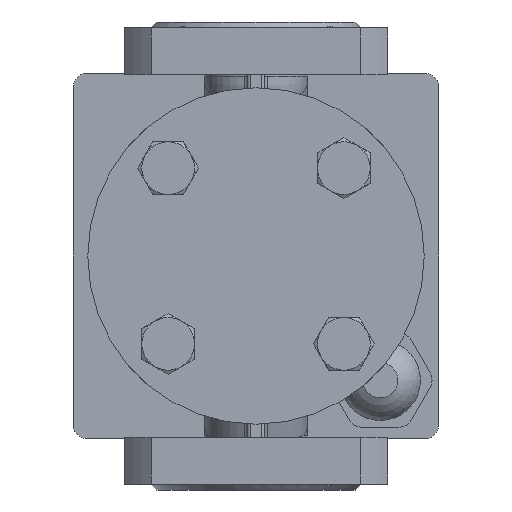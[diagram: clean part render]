
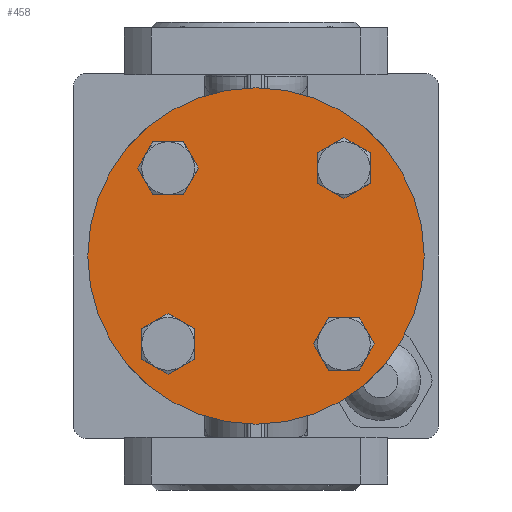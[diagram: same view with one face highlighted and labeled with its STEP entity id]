
A CAD part, front view. The second image highlights one B-rep face of the part: STEP entity #458.
In plain terms, the highlighted planar face has unit normal (0, -1, 0).
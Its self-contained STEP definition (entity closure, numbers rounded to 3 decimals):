
#458=ADVANCED_FACE('',(#9619,#9621,#9623,#9625,#9627),#9629,.F.);
#9619=FACE_BOUND('',#9620,.T.);
#9620=EDGE_LOOP('',(#22709));
#9621=FACE_BOUND('',#9622,.T.);
#9622=EDGE_LOOP('',(#22710));
#9623=FACE_BOUND('',#9624,.T.);
#9624=EDGE_LOOP('',(#22711));
#9625=FACE_BOUND('',#9626,.T.);
#9626=EDGE_LOOP('',(#22712));
#9627=FACE_BOUND('',#9628,.T.);
#9628=EDGE_LOOP('',(#22713));
#9629=PLANE('',#9630);
#9630=AXIS2_PLACEMENT_3D('',#9631,#9632,#9633);
#9631=CARTESIAN_POINT('',(0.,-96.,0.));
#9632=DIRECTION('',(0.,1.,0.));
#9633=DIRECTION('',(-1.,0.,0.));
#22709=ORIENTED_EDGE('',*,*,#30631,.F.);
#22710=ORIENTED_EDGE('',*,*,#30672,.F.);
#22711=ORIENTED_EDGE('',*,*,#30673,.F.);
#22712=ORIENTED_EDGE('',*,*,#30674,.F.);
#22713=ORIENTED_EDGE('',*,*,#30675,.F.);
#30631=EDGE_CURVE('',#34461,#34461,#34462,.T.);
#30672=EDGE_CURVE('',#34527,#34527,#34528,.T.);
#30673=EDGE_CURVE('',#34529,#34529,#34530,.T.);
#30674=EDGE_CURVE('',#34531,#34531,#34532,.T.);
#30675=EDGE_CURVE('',#34533,#34533,#34534,.T.);
#34461=VERTEX_POINT('',#41322);
#34462=CIRCLE('',#41323,57.5);
#34527=VERTEX_POINT('',#41489);
#34528=CIRCLE('',#41490,9.);
#34529=VERTEX_POINT('',#41494);
#34530=CIRCLE('',#41495,9.);
#34531=VERTEX_POINT('',#41499);
#34532=CIRCLE('',#41500,9.);
#34533=VERTEX_POINT('',#41504);
#34534=CIRCLE('',#41505,9.);
#41322=CARTESIAN_POINT('',(-57.5,-96.,0.));
#41323=AXIS2_PLACEMENT_3D('',#41324,#41325,#41326);
#41324=CARTESIAN_POINT('',(0.,-96.,0.));
#41325=DIRECTION('',(0.,1.,0.));
#41326=DIRECTION('',(-1.,0.,0.));
#41489=CARTESIAN_POINT('',(39.052,-96.,30.052));
#41490=AXIS2_PLACEMENT_3D('',#41491,#41492,#41493);
#41491=CARTESIAN_POINT('',(30.052,-96.,30.052));
#41492=DIRECTION('',(0.,-1.,0.));
#41493=DIRECTION('',(1.,0.,0.));
#41494=CARTESIAN_POINT('',(30.052,-96.,-39.052));
#41495=AXIS2_PLACEMENT_3D('',#41496,#41497,#41498);
#41496=CARTESIAN_POINT('',(30.052,-96.,-30.052));
#41497=DIRECTION('',(0.,-1.,0.));
#41498=DIRECTION('',(0.,0.,-1.));
#41499=CARTESIAN_POINT('',(-39.052,-96.,-30.052));
#41500=AXIS2_PLACEMENT_3D('',#41501,#41502,#41503);
#41501=CARTESIAN_POINT('',(-30.052,-96.,-30.052));
#41502=DIRECTION('',(0.,-1.,0.));
#41503=DIRECTION('',(-1.,0.,0.));
#41504=CARTESIAN_POINT('',(-30.052,-96.,39.052));
#41505=AXIS2_PLACEMENT_3D('',#41506,#41507,#41508);
#41506=CARTESIAN_POINT('',(-30.052,-96.,30.052));
#41507=DIRECTION('',(0.,-1.,0.));
#41508=DIRECTION('',(0.,0.,1.));
